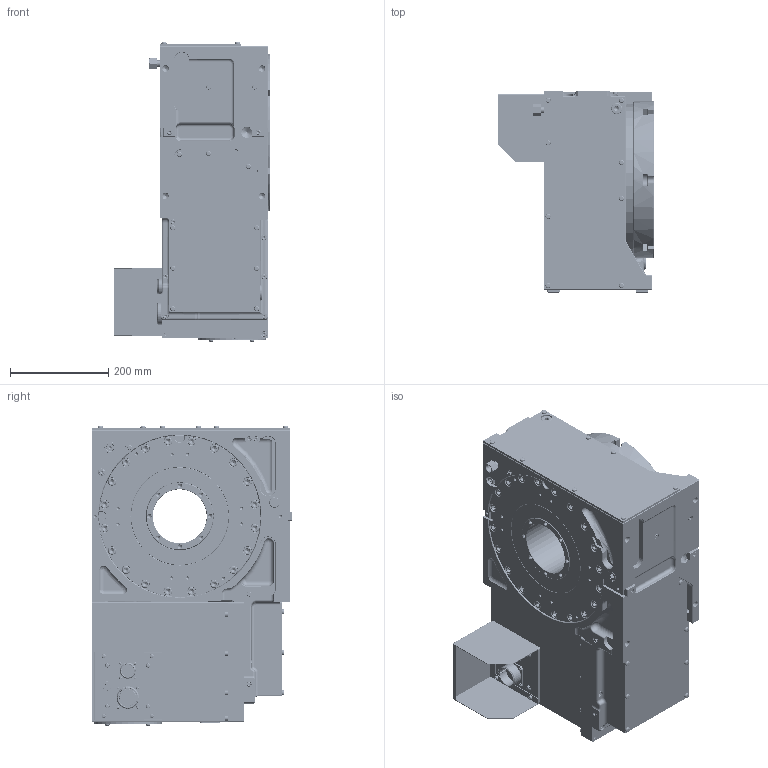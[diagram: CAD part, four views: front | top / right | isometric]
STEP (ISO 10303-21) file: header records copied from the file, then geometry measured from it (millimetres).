
FILE_DESCRIPTION (( 'STEP AP214' ), '1' );
FILE_NAME ('DHP-61E700515.STEP', '2025-10-31T02:04:40', ( '' ), ( '' ), 'SwSTEP 2.0', 'SolidWorks 2022', '' );
FILE_SCHEMA (( 'AUTOMOTIVE_DESIGN' ));
Length unit declared in the file: millimetre
Products named in the file (45): Copy of 313ABA0001^Copy of 61E867324_DHP-61E700515; 61E483959; 040AAA0003; DHP-61E700515; Copy of 0030106025^Copy of 61E867324_DHP-61E700515; 61E363991; Copy of 0030106075^Copy of 61E867324_DHP-61E700515; Copy of 61E280932^Copy of 61E867324_DHP-61E700515; 0441125210_直接取付; 026ADA0001^Copy of 61E867324_DHP-61E700515; 61E866643; Copy of 0030106020^Copy of 61E867324_DHP-61E700515; Copy of 0030106016^Copy of 61E867324_DHP-61E700515; 0030106012; 040AFA0010; 040BRA0003; 0158000005; 0150010500; 61E446509; 61E864331_油圧仕様; Copy of 0030106030^Copy of 61E867324_DHP-61E700515; Copy of 0030106040^Copy of 61E867324_DHP-61E700515; Copy of 61E867324^DHP-61E700515; 008CZA0006; 008CZA0035; 61E866644; 008CZA0037; 61E495266; 073AAA0089; 61E486542; 073AAA0091; 0263213000_平面内圧用; 0158010016; 61E445843; 017ACA0001_PL2.3取付時; 61E866645; 61M419778; Copy of 61E245997^Copy of 61E867324_DHP-61E700515; 0158010014; 026ADA0037^Copy of 61E867324_DHP-61E700515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
Assembly tree (92 placements, depth 3):
  DHP-61E700515
    040AAA0003
    040BRA0003  x2
    61E864331_油圧仕様
      61E864328_油圧仕様外形図
      61E866644
      61E866643
      61E866645
    61M494586  x2
      61M419778
      0030106012
    Copy of 61E867324^DHP-61E700515
      Copy of 0030106020^Copy of 61E867324_DHP-61E700515
      Copy of 0030106025^Copy of 61E867324_DHP-61E700515  x3
      Copy of 0030106040^Copy of 61E867324_DHP-61E700515
      Copy of 313ABA0001^Copy of 61E867324_DHP-61E700515
      Copy of 0030106075^Copy of 61E867324_DHP-61E700515
      Copy of 0030106030^Copy of 61E867324_DHP-61E700515  x3
      Copy of 0030106016^Copy of 61E867324_DHP-61E700515  x5
      026ADA0037^Copy of 61E867324_DHP-61E700515
      026ADA0001^Copy of 61E867324_DHP-61E700515
      Copy of 61E280932^Copy of 61E867324_DHP-61E700515
      Copy of 61E245997^Copy of 61E867324_DHP-61E700515
    61E495266
      073AAA0089
      073AAA0091
      008CZA0037  x4
      008CZA0035  x4
      008CZA0006  x8
      0158010014
      0158000003  x8
      0150010500  x4
      0158000005  x4
      0441125210_直接取付
      0263213000_平面内圧用
      61E446509
      61E363991
    61E493309
      008CZA0035  x4
      0158000005  x4
      0263213000_平面内圧用
      61E445843
    61E483959
      61E486542
      017ACA0001_PL2.3取付時  x4
    61E809804
      040AFA0010
      0158010016
Bounding box: 318 x 410 x 611.54 mm (x, y, z)
Volume: 26408396 mm3; surface area: 2916015.3 mm2
Topology: 157 solids, 159 shells, 5081 faces, 13685 edges, 9213 vertices
Faces by surface type: plane 2088, cylinder 1484, cone 1111, torus 254, bspline 82, sphere 62
Entity records: 186623 total; most frequent: CARTESIAN_POINT 65918, ORIENTED_EDGE 22770, DIRECTION 21423, EDGE_CURVE 11385, AXIS2_PLACEMENT_3D 8059, VERTEX_POINT 7903, LINE 5305, VECTOR 5305
